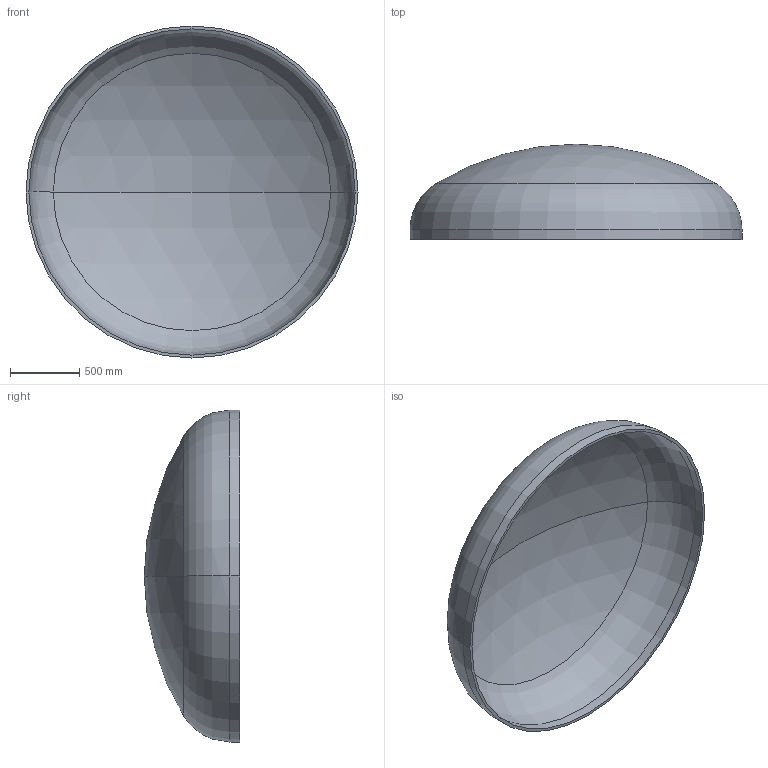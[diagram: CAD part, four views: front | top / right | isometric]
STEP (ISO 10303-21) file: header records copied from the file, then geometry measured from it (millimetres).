
FILE_DESCRIPTION (( 'STEP AP203' ), '1' );
FILE_NAME ('DIN 28013 Korbbogenform_-_Boden DIN 28013 - 2400 x 70 - I - s=21.step', '2016-07-01T15:10:20', ( '' ), ( '' ), 'SwSTEP 2.0', 'SolidWorks 2013', '' );
FILE_SCHEMA (( 'CONFIG_CONTROL_DESIGN' ));
Length unit declared in the file: millimetre
Products named in the file (1): DIN 28013 Korbbogenform_-_Boden DIN 28013 - 2400 x 70 - I - s=21
Bounding box: 2400 x 688.87 x 2400 mm (x, y, z)
Volume: 141076846.4 mm3; surface area: 13593759.6 mm2
Topology: 1 solids, 1 shells, 13 faces, 24 edges, 14 vertices
Faces by surface type: torus 4, cylinder 4, sphere 4, plane 1
Entity records: 407 total; most frequent: DIRECTION 72, CARTESIAN_POINT 52, ORIENTED_EDGE 48, AXIS2_PLACEMENT_3D 34, EDGE_CURVE 24, CIRCLE 20, VERTEX_POINT 14, EDGE_LOOP 14
